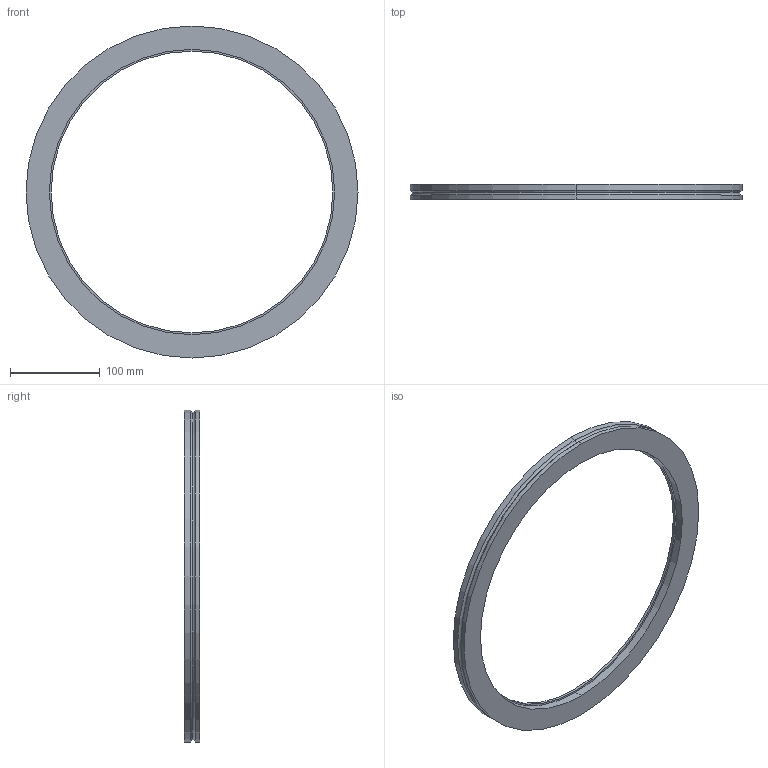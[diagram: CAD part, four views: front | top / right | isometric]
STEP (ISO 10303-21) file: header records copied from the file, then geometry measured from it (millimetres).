
FILE_DESCRIPTION (( 'STEP AP214' ), '1' );
FILE_NAME ('W4KL320.STEP', '2021-08-18T14:04:03', ( '' ), ( '' ), 'SwSTEP 2.0', 'SolidWorks 2020', '' );
FILE_SCHEMA (( 'AUTOMOTIVE_DESIGN' ));
Length unit declared in the file: millimetre
Products named in the file (1): W4KL320
Bounding box: 370 x 17 x 370 mm (x, y, z)
Volume: 409655.8 mm3; surface area: 100483.4 mm2
Topology: 1 solids, 1 shells, 21 faces, 42 edges, 26 vertices
Faces by surface type: cylinder 12, plane 5, torus 4
Entity records: 596 total; most frequent: DIRECTION 116, CARTESIAN_POINT 90, ORIENTED_EDGE 84, AXIS2_PLACEMENT_3D 52, EDGE_CURVE 42, CIRCLE 30, VERTEX_POINT 26, EDGE_LOOP 26
